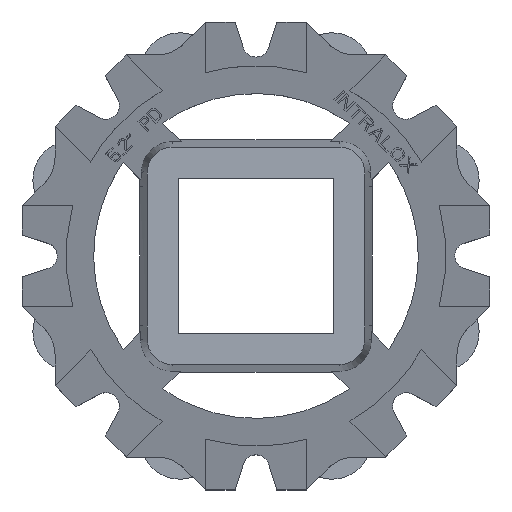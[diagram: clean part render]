
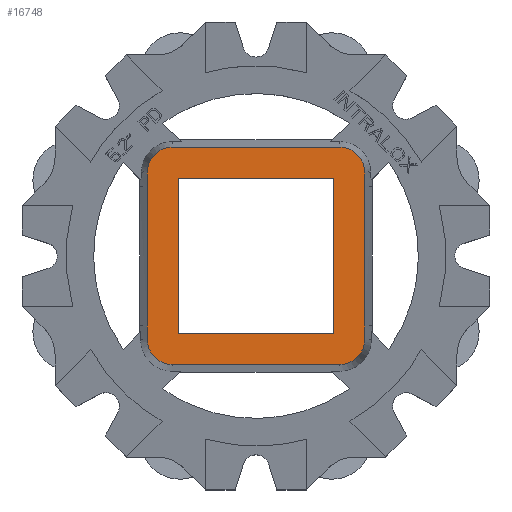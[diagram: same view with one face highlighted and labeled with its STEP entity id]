
A CAD part, top view. The second image highlights one B-rep face of the part: STEP entity #16748.
In plain terms, the highlighted planar face has unit normal (0, 0, 1).
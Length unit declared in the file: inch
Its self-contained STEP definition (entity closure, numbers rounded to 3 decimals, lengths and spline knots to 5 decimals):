
#5067=DIRECTION('',(0.,1.,0.));
#5068=VECTOR('',#5067,0.15);
#5069=CARTESIAN_POINT('',(-1.1,0.7,1.));
#5070=LINE('',#5069,#5068);
#5071=CARTESIAN_POINT('',(-0.85,0.85,1.));
#5072=DIRECTION('',(0.,0.,1.));
#5073=DIRECTION('',(0.,1.,0.));
#5074=AXIS2_PLACEMENT_3D('',#5071,#5072,#5073);
#5076=DIRECTION('',(1.,0.,0.));
#5077=VECTOR('',#5076,1.7);
#5078=CARTESIAN_POINT('',(-0.85,1.1,1.));
#5079=LINE('',#5078,#5077);
#5080=CARTESIAN_POINT('',(0.85,0.85,1.));
#5081=DIRECTION('',(0.,0.,1.));
#5082=DIRECTION('',(1.,0.,0.));
#5083=AXIS2_PLACEMENT_3D('',#5080,#5081,#5082);
#5085=DIRECTION('',(0.,-1.,0.));
#5086=VECTOR('',#5085,0.15);
#5087=CARTESIAN_POINT('',(1.1,0.85,1.));
#5088=LINE('',#5087,#5086);
#5089=DIRECTION('',(0.,-1.,0.));
#5090=VECTOR('',#5089,1.4);
#5091=CARTESIAN_POINT('',(1.1,0.7,1.));
#5092=LINE('',#5091,#5090);
#5093=DIRECTION('',(0.,-1.,0.));
#5094=VECTOR('',#5093,0.15);
#5095=CARTESIAN_POINT('',(1.1,-0.7,1.));
#5096=LINE('',#5095,#5094);
#5097=CARTESIAN_POINT('',(0.85,-0.85,1.));
#5098=DIRECTION('',(0.,0.,1.));
#5099=DIRECTION('',(0.,-1.,0.));
#5100=AXIS2_PLACEMENT_3D('',#5097,#5098,#5099);
#5102=DIRECTION('',(-1.,0.,0.));
#5103=VECTOR('',#5102,1.7);
#5104=CARTESIAN_POINT('',(0.85,-1.1,1.));
#5105=LINE('',#5104,#5103);
#5106=CARTESIAN_POINT('',(-0.85,-0.85,1.));
#5107=DIRECTION('',(0.,0.,1.));
#5108=DIRECTION('',(-1.,0.,0.));
#5109=AXIS2_PLACEMENT_3D('',#5106,#5107,#5108);
#5111=DIRECTION('',(0.,1.,0.));
#5112=VECTOR('',#5111,0.15);
#5113=CARTESIAN_POINT('',(-1.1,-0.85,1.));
#5114=LINE('',#5113,#5112);
#5115=DIRECTION('',(0.,1.,0.));
#5116=VECTOR('',#5115,1.4);
#5117=CARTESIAN_POINT('',(-1.1,-0.7,1.));
#5118=LINE('',#5117,#5116);
#5119=DIRECTION('',(0.,-1.,0.));
#5120=VECTOR('',#5119,1.575);
#5121=CARTESIAN_POINT('',(-0.7875,0.7875,1.));
#5122=LINE('',#5121,#5120);
#5123=DIRECTION('',(1.,0.,0.));
#5124=VECTOR('',#5123,1.575);
#5125=CARTESIAN_POINT('',(-0.7875,-0.7875,1.));
#5126=LINE('',#5125,#5124);
#5127=DIRECTION('',(0.,1.,0.));
#5128=VECTOR('',#5127,1.575);
#5129=CARTESIAN_POINT('',(0.7875,-0.7875,1.));
#5130=LINE('',#5129,#5128);
#5131=DIRECTION('',(-1.,0.,0.));
#5132=VECTOR('',#5131,1.575);
#5133=CARTESIAN_POINT('',(0.7875,0.7875,1.));
#5134=LINE('',#5133,#5132);
#10088=CARTESIAN_POINT('',(-1.1,0.7,1.));
#10089=CARTESIAN_POINT('',(-1.1,0.85,1.));
#10090=VERTEX_POINT('',#10088);
#10091=VERTEX_POINT('',#10089);
#10092=CARTESIAN_POINT('',(-1.1,-0.7,1.));
#10093=VERTEX_POINT('',#10092);
#10094=CARTESIAN_POINT('',(-1.1,-0.85,1.));
#10095=VERTEX_POINT('',#10094);
#10096=CARTESIAN_POINT('',(0.85,-1.1,1.));
#10097=CARTESIAN_POINT('',(-0.85,-1.1,1.));
#10098=VERTEX_POINT('',#10096);
#10099=VERTEX_POINT('',#10097);
#10100=CARTESIAN_POINT('',(1.1,-0.7,1.));
#10101=CARTESIAN_POINT('',(1.1,-0.85,1.));
#10102=VERTEX_POINT('',#10100);
#10103=VERTEX_POINT('',#10101);
#10104=CARTESIAN_POINT('',(1.1,0.7,1.));
#10105=VERTEX_POINT('',#10104);
#10106=CARTESIAN_POINT('',(1.1,0.85,1.));
#10107=VERTEX_POINT('',#10106);
#10108=CARTESIAN_POINT('',(-0.85,1.1,1.));
#10109=CARTESIAN_POINT('',(0.85,1.1,1.));
#10110=VERTEX_POINT('',#10108);
#10111=VERTEX_POINT('',#10109);
#12188=CARTESIAN_POINT('',(-0.7875,0.7875,1.));
#12189=CARTESIAN_POINT('',(-0.7875,-0.7875,1.));
#12190=VERTEX_POINT('',#12188);
#12191=VERTEX_POINT('',#12189);
#12192=CARTESIAN_POINT('',(0.7875,-0.7875,1.));
#12193=VERTEX_POINT('',#12192);
#12194=CARTESIAN_POINT('',(0.7875,0.7875,1.));
#12195=VERTEX_POINT('',#12194);
#16710=CARTESIAN_POINT('',(0.,0.,1.));
#16711=DIRECTION('',(0.,0.,1.));
#16712=DIRECTION('',(1.,0.,0.));
#16713=AXIS2_PLACEMENT_3D('',#16710,#16711,#16712);
#16714=PLANE('',#16713);
#16715=ORIENTED_EDGE('',*,*,#16612,.T.);
#16716=ORIENTED_EDGE('',*,*,#16704,.F.);
#16717=ORIENTED_EDGE('',*,*,#16371,.T.);
#16719=ORIENTED_EDGE('',*,*,#16718,.F.);
#16721=ORIENTED_EDGE('',*,*,#16720,.T.);
#16723=ORIENTED_EDGE('',*,*,#16722,.T.);
#16725=ORIENTED_EDGE('',*,*,#16724,.T.);
#16727=ORIENTED_EDGE('',*,*,#16726,.F.);
#16729=ORIENTED_EDGE('',*,*,#16728,.T.);
#16731=ORIENTED_EDGE('',*,*,#16730,.F.);
#16733=ORIENTED_EDGE('',*,*,#16732,.T.);
#16735=ORIENTED_EDGE('',*,*,#16734,.T.);
#16736=EDGE_LOOP('',(#16715,#16716,#16717,#16719,#16721,#16723,#16725,#16727,
#16729,#16731,#16733,#16735));
#16737=FACE_OUTER_BOUND('',#16736,.F.);
#16739=ORIENTED_EDGE('',*,*,#16738,.T.);
#16741=ORIENTED_EDGE('',*,*,#16740,.T.);
#16743=ORIENTED_EDGE('',*,*,#16742,.T.);
#16745=ORIENTED_EDGE('',*,*,#16744,.T.);
#16746=EDGE_LOOP('',(#16739,#16741,#16743,#16745));
#16747=FACE_BOUND('',#16746,.F.);
#16748=ADVANCED_FACE('',(#16737,#16747),#16714,.T.);
#5075=CIRCLE('',#5074,0.25);
#5084=CIRCLE('',#5083,0.25);
#5101=CIRCLE('',#5100,0.25);
#5110=CIRCLE('',#5109,0.25);
#16371=EDGE_CURVE('',#10110,#10111,#5079,.T.);
#16612=EDGE_CURVE('',#10090,#10091,#5070,.T.);
#16704=EDGE_CURVE('',#10110,#10091,#5075,.T.);
#16718=EDGE_CURVE('',#10107,#10111,#5084,.T.);
#16720=EDGE_CURVE('',#10107,#10105,#5088,.T.);
#16722=EDGE_CURVE('',#10105,#10102,#5092,.T.);
#16724=EDGE_CURVE('',#10102,#10103,#5096,.T.);
#16726=EDGE_CURVE('',#10098,#10103,#5101,.T.);
#16728=EDGE_CURVE('',#10098,#10099,#5105,.T.);
#16730=EDGE_CURVE('',#10095,#10099,#5110,.T.);
#16732=EDGE_CURVE('',#10095,#10093,#5114,.T.);
#16734=EDGE_CURVE('',#10093,#10090,#5118,.T.);
#16738=EDGE_CURVE('',#12190,#12191,#5122,.T.);
#16740=EDGE_CURVE('',#12191,#12193,#5126,.T.);
#16742=EDGE_CURVE('',#12193,#12195,#5130,.T.);
#16744=EDGE_CURVE('',#12195,#12190,#5134,.T.);
